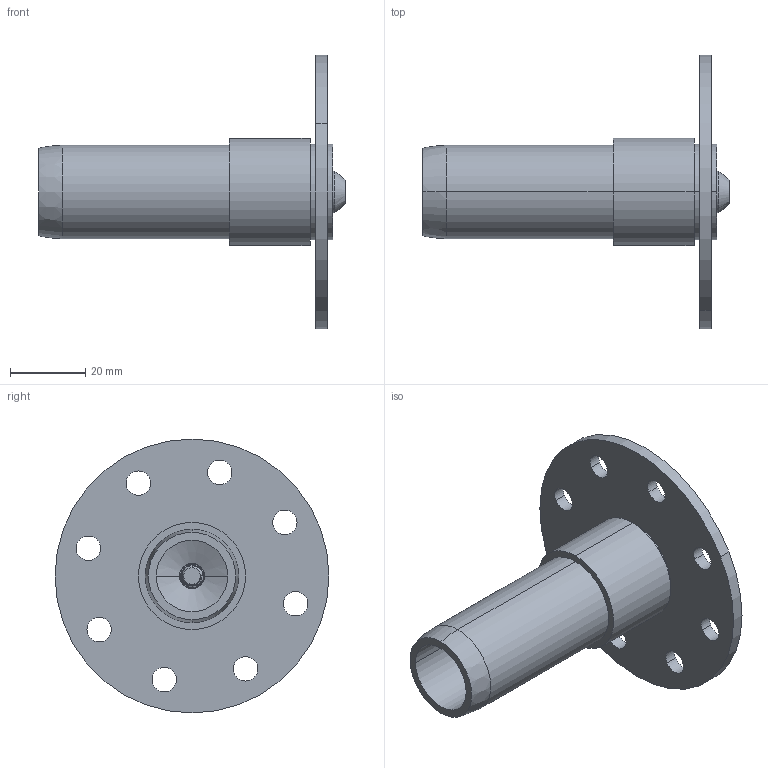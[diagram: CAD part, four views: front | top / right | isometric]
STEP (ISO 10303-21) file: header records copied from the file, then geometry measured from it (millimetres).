
FILE_DESCRIPTION (( 'STEP AP203' ), '1' );
FILE_NAME ('FDPCK-MC1-CFHEX-END-KIT.step', '2019-09-11T18:40:34', ( 'ydmin' ), ( '' ), 'SwSTEP 2.0', 'SolidWorks 2017', '' );
FILE_SCHEMA (( 'CONFIG_CONTROL_DESIGN' ));
Length unit declared in the file: inch
Products named in the file (1): FDPCK-MC1-CFHEX-END-KIT
Bounding box: 81.81 x 73.03 x 73.03 mm (x, y, z)
Volume: 36982.3 mm3; surface area: 22944.7 mm2
Topology: 6 solids, 6 shells, 157 faces, 406 edges, 266 vertices
Faces by surface type: cylinder 92, plane 40, bspline 14, cone 11
Entity records: 9673 total; most frequent: CARTESIAN_POINT 5946, ORIENTED_EDGE 812, DIRECTION 714, EDGE_CURVE 406, AXIS2_PLACEMENT_3D 268, VERTEX_POINT 266, EDGE_LOOP 186, LINE 178
